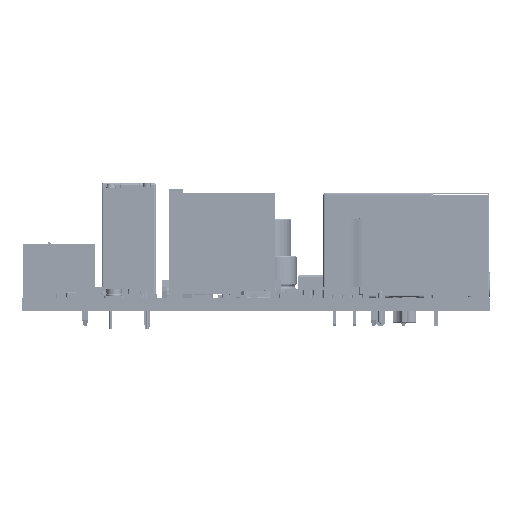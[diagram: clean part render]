
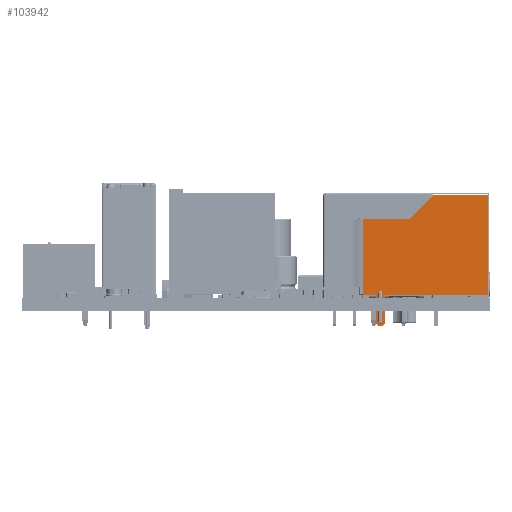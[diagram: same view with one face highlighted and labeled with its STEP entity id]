
A CAD part, left-side view. The second image highlights one B-rep face of the part: STEP entity #103942.
In plain terms, the highlighted planar face has unit normal (-1, 0, 0) as drawn and (0, -1, 0) by its records, which use the part's own axes.
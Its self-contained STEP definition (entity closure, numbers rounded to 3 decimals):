
#103820 = VERTEX_POINT('',#103821);
#103821 = CARTESIAN_POINT('',(-9.85,-8.,3.065));
#103838 = VERTEX_POINT('',#103839);
#103839 = CARTESIAN_POINT('',(-9.85,-8.,3.565));
#103846 = EDGE_CURVE('',#103820,#103838,#103847,.T.);
#103847 = CIRCLE('',#103848,0.25);
#103848 = AXIS2_PLACEMENT_3D('',#103849,#103850,#103851);
#103849 = CARTESIAN_POINT('',(-9.85,-8.,3.315));
#103850 = DIRECTION('',(0.,1.,0.));
#103851 = DIRECTION('',(0.,0.,1.));
#103868 = EDGE_CURVE('',#103869,#103871,#103873,.T.);
#103869 = VERTEX_POINT('',#103870);
#103870 = CARTESIAN_POINT('',(-9.85,-8.,2.715));
#103871 = VERTEX_POINT('',#103872);
#103872 = CARTESIAN_POINT('',(-9.85,-8.,3.915));
#103873 = CIRCLE('',#103874,0.6);
#103874 = AXIS2_PLACEMENT_3D('',#103875,#103876,#103877);
#103875 = CARTESIAN_POINT('',(-9.85,-8.,3.315));
#103876 = DIRECTION('',(0.,1.,0.));
#103877 = DIRECTION('',(0.,0.,-1.));
#103942 = ADVANCED_FACE('',(#103943,#104040),#104066,.T.);
#103943 = FACE_BOUND('',#103944,.T.);
#103944 = EDGE_LOOP('',(#103945,#103953,#103961,#103969,#103977,#103985,
    #103993,#104001,#104009,#104017,#104025,#104033,#104039));
#103945 = ORIENTED_EDGE('',*,*,#103946,.F.);
#103946 = EDGE_CURVE('',#103947,#103869,#103949,.T.);
#103947 = VERTEX_POINT('',#103948);
#103948 = CARTESIAN_POINT('',(-6.45,-8.,2.715));
#103949 = LINE('',#103950,#103951);
#103950 = CARTESIAN_POINT('',(-6.45,-8.,2.715));
#103951 = VECTOR('',#103952,1.);
#103952 = DIRECTION('',(-1.,0.,0.));
#103953 = ORIENTED_EDGE('',*,*,#103954,.T.);
#103954 = EDGE_CURVE('',#103947,#103955,#103957,.T.);
#103955 = VERTEX_POINT('',#103956);
#103956 = CARTESIAN_POINT('',(-6.45,-8.,2.165));
#103957 = LINE('',#103958,#103959);
#103958 = CARTESIAN_POINT('',(-6.45,-8.,5.525));
#103959 = VECTOR('',#103960,1.);
#103960 = DIRECTION('',(0.,0.,-1.));
#103961 = ORIENTED_EDGE('',*,*,#103962,.T.);
#103962 = EDGE_CURVE('',#103955,#103963,#103965,.T.);
#103963 = VERTEX_POINT('',#103964);
#103964 = CARTESIAN_POINT('',(-6.45,-8.,-1.635));
#103965 = LINE('',#103966,#103967);
#103966 = CARTESIAN_POINT('',(-6.45,-8.,2.165));
#103967 = VECTOR('',#103968,1.);
#103968 = DIRECTION('',(0.,0.,-1.));
#103969 = ORIENTED_EDGE('',*,*,#103970,.T.);
#103970 = EDGE_CURVE('',#103963,#103971,#103973,.T.);
#103971 = VERTEX_POINT('',#103972);
#103972 = CARTESIAN_POINT('',(-6.45,-8.,-10.425));
#103973 = LINE('',#103974,#103975);
#103974 = CARTESIAN_POINT('',(-6.45,-8.,5.525));
#103975 = VECTOR('',#103976,1.);
#103976 = DIRECTION('',(0.,0.,-1.));
#103977 = ORIENTED_EDGE('',*,*,#103978,.T.);
#103978 = EDGE_CURVE('',#103971,#103979,#103981,.T.);
#103979 = VERTEX_POINT('',#103980);
#103980 = CARTESIAN_POINT('',(6.45,-8.,-10.425));
#103981 = LINE('',#103982,#103983);
#103982 = CARTESIAN_POINT('',(-6.45,-8.,-10.425));
#103983 = VECTOR('',#103984,1.);
#103984 = DIRECTION('',(1.,0.,0.));
#103985 = ORIENTED_EDGE('',*,*,#103986,.T.);
#103986 = EDGE_CURVE('',#103979,#103987,#103989,.T.);
#103987 = VERTEX_POINT('',#103988);
#103988 = CARTESIAN_POINT('',(6.45,-8.,-3.475));
#103989 = LINE('',#103990,#103991);
#103990 = CARTESIAN_POINT('',(6.45,-8.,-10.503));
#103991 = VECTOR('',#103992,1.);
#103992 = DIRECTION('',(0.,0.,1.));
#103993 = ORIENTED_EDGE('',*,*,#103994,.T.);
#103994 = EDGE_CURVE('',#103987,#103995,#103997,.T.);
#103995 = VERTEX_POINT('',#103996);
#103996 = CARTESIAN_POINT('',(3.35,-8.,-0.375));
#103997 = LINE('',#103998,#103999);
#103998 = CARTESIAN_POINT('',(1.488,-8.,1.488));
#103999 = VECTOR('',#104000,1.);
#104000 = DIRECTION('',(-0.707,0.,
    0.707));
#104001 = ORIENTED_EDGE('',*,*,#104002,.T.);
#104002 = EDGE_CURVE('',#103995,#104003,#104005,.T.);
#104003 = VERTEX_POINT('',#104004);
#104004 = CARTESIAN_POINT('',(3.35,-8.,5.525));
#104005 = LINE('',#104006,#104007);
#104006 = CARTESIAN_POINT('',(3.35,-8.,0.));
#104007 = VECTOR('',#104008,1.);
#104008 = DIRECTION('',(0.,0.,1.));
#104009 = ORIENTED_EDGE('',*,*,#104010,.T.);
#104010 = EDGE_CURVE('',#104003,#104011,#104013,.T.);
#104011 = VERTEX_POINT('',#104012);
#104012 = CARTESIAN_POINT('',(-5.364,-8.,5.525));
#104013 = LINE('',#104014,#104015);
#104014 = CARTESIAN_POINT('',(6.45,-8.,5.525));
#104015 = VECTOR('',#104016,1.);
#104016 = DIRECTION('',(-1.,0.,0.));
#104017 = ORIENTED_EDGE('',*,*,#104018,.T.);
#104018 = EDGE_CURVE('',#104011,#104019,#104021,.T.);
#104019 = VERTEX_POINT('',#104020);
#104020 = CARTESIAN_POINT('',(-6.45,-8.,5.525));
#104021 = LINE('',#104022,#104023);
#104022 = CARTESIAN_POINT('',(6.45,-8.,5.525));
#104023 = VECTOR('',#104024,1.);
#104024 = DIRECTION('',(-1.,0.,0.));
#104025 = ORIENTED_EDGE('',*,*,#104026,.T.);
#104026 = EDGE_CURVE('',#104019,#104027,#104029,.T.);
#104027 = VERTEX_POINT('',#104028);
#104028 = CARTESIAN_POINT('',(-6.45,-8.,3.915));
#104029 = LINE('',#104030,#104031);
#104030 = CARTESIAN_POINT('',(-6.45,-8.,5.525));
#104031 = VECTOR('',#104032,1.);
#104032 = DIRECTION('',(0.,0.,-1.));
#104033 = ORIENTED_EDGE('',*,*,#104034,.F.);
#104034 = EDGE_CURVE('',#103871,#104027,#104035,.T.);
#104035 = LINE('',#104036,#104037);
#104036 = CARTESIAN_POINT('',(-9.85,-8.,3.915));
#104037 = VECTOR('',#104038,1.);
#104038 = DIRECTION('',(1.,0.,0.));
#104039 = ORIENTED_EDGE('',*,*,#103868,.F.);
#104040 = FACE_BOUND('',#104041,.T.);
#104041 = EDGE_LOOP('',(#104042,#104043,#104051,#104060));
#104042 = ORIENTED_EDGE('',*,*,#103846,.T.);
#104043 = ORIENTED_EDGE('',*,*,#104044,.F.);
#104044 = EDGE_CURVE('',#104045,#103838,#104047,.T.);
#104045 = VERTEX_POINT('',#104046);
#104046 = CARTESIAN_POINT('',(-6.15,-8.,3.565));
#104047 = LINE('',#104048,#104049);
#104048 = CARTESIAN_POINT('',(0.,-8.,3.565));
#104049 = VECTOR('',#104050,1.);
#104050 = DIRECTION('',(-1.,0.,0.));
#104051 = ORIENTED_EDGE('',*,*,#104052,.F.);
#104052 = EDGE_CURVE('',#104053,#104045,#104055,.T.);
#104053 = VERTEX_POINT('',#104054);
#104054 = CARTESIAN_POINT('',(-6.15,-8.,3.065));
#104055 = CIRCLE('',#104056,0.25);
#104056 = AXIS2_PLACEMENT_3D('',#104057,#104058,#104059);
#104057 = CARTESIAN_POINT('',(-6.15,-8.,3.315));
#104058 = DIRECTION('',(0.,-1.,0.));
#104059 = DIRECTION('',(1.,0.,0.));
#104060 = ORIENTED_EDGE('',*,*,#104061,.F.);
#104061 = EDGE_CURVE('',#103820,#104053,#104062,.T.);
#104062 = LINE('',#104063,#104064);
#104063 = CARTESIAN_POINT('',(0.,-8.,3.065));
#104064 = VECTOR('',#104065,1.);
#104065 = DIRECTION('',(1.,0.,0.));
#104066 = PLANE('',#104067);
#104067 = AXIS2_PLACEMENT_3D('',#104068,#104069,#104070);
#104068 = CARTESIAN_POINT('',(0.,-8.,0.));
#104069 = DIRECTION('',(0.,-1.,0.));
#104070 = DIRECTION('',(0.,0.,1.));
